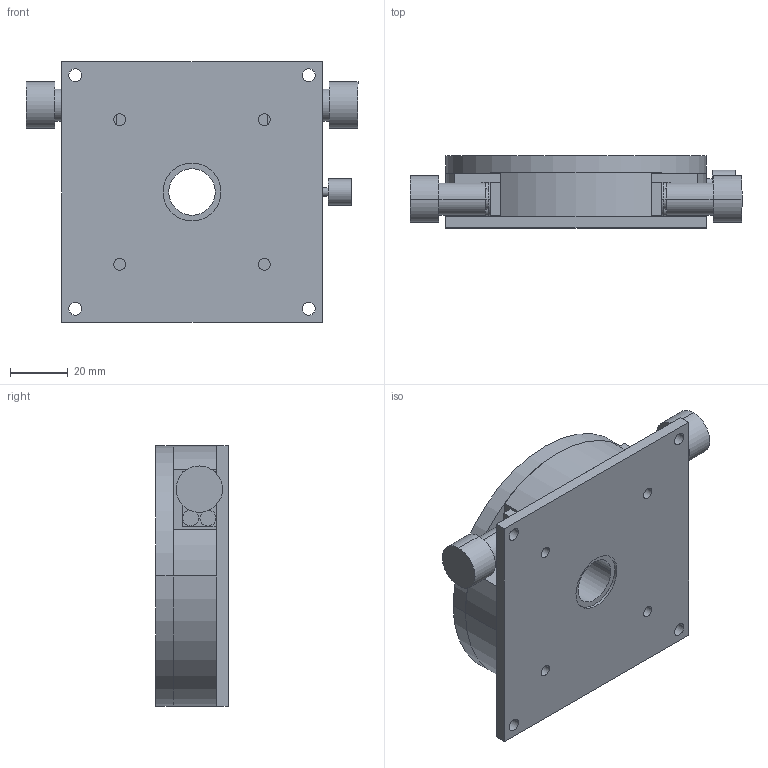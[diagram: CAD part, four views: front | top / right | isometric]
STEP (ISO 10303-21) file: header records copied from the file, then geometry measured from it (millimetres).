
FILE_DESCRIPTION (( 'STEP AP203' ), '1' );
FILE_NAME ('RS-927.STEP', '2008-01-30T05:45:33', ( '' ), ( '' ), 'SwSTEP 2.0', 'SolidWorks 2007', '' );
FILE_SCHEMA (( 'CONFIG_CONTROL_DESIGN' ));
Length unit declared in the file: millimetre
Products named in the file (3): RS-927; RS-927-1_蹬怮椔; RS-927-2_蹬怮椔
Assembly tree (2 placements, depth 2):
  RS-927
    RS-927-2_蹬怮椔
    RS-927-1_蹬怮椔
Bounding box: 114.6 x 25 x 90 mm (x, y, z)
Volume: 163309.8 mm3; surface area: 43292.8 mm2
Topology: 2 solids, 6 shells, 145 faces, 337 edges, 220 vertices
Faces by surface type: cylinder 88, plane 57
Entity records: 4616 total; most frequent: DIRECTION 817, CARTESIAN_POINT 759, ORIENTED_EDGE 674, EDGE_CURVE 337, AXIS2_PLACEMENT_3D 334, VERTEX_POINT 220, EDGE_LOOP 197, CIRCLE 184
